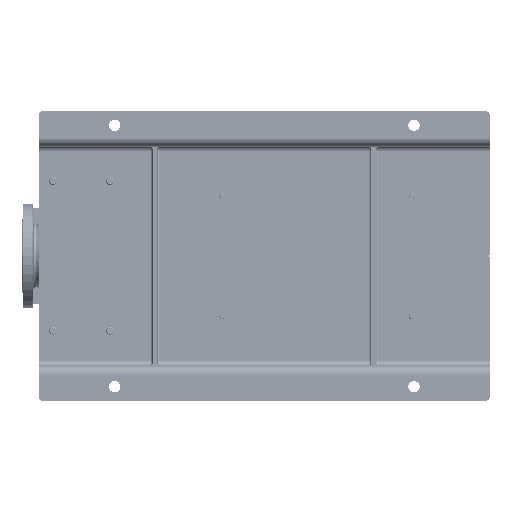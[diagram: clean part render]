
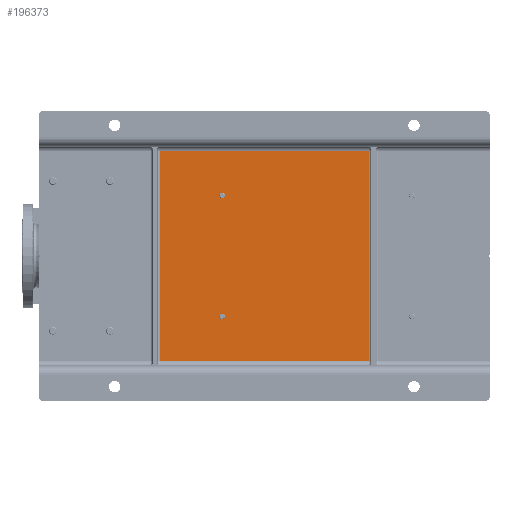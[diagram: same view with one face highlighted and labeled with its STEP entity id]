
A CAD part, front view. The second image highlights one B-rep face of the part: STEP entity #196373.
In plain terms, the highlighted planar face has unit normal (0, -1, 0).
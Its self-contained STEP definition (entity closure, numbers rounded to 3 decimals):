
#9309 = ORIENTED_EDGE ( 'NONE', *, *, #230290, .T. ) ;
#11022 = CARTESIAN_POINT ( 'NONE',  ( 432., 65., -392.5 ) ) ;
#12172 = DIRECTION ( 'NONE',  ( 0., 0., -1. ) ) ;
#19432 = CARTESIAN_POINT ( 'NONE',  ( 525., 65., -250. ) ) ;
#21341 = AXIS2_PLACEMENT_3D ( 'NONE', #234202, #68946, #12172 ) ;
#21811 = EDGE_LOOP ( 'NONE', ( #149439, #53320 ) ) ;
#32239 = DIRECTION ( 'NONE',  ( 0., 1., 0. ) ) ;
#36063 = DIRECTION ( 'NONE',  ( 0., 0., -1. ) ) ;
#36657 = CARTESIAN_POINT ( 'NONE',  ( 178., 65., -386.5 ) ) ;
#36715 = ORIENTED_EDGE ( 'NONE', *, *, #155156, .T. ) ;
#44853 = ORIENTED_EDGE ( 'NONE', *, *, #107772, .T. ) ;
#48762 = VERTEX_POINT ( 'NONE', #135370 ) ;
#51294 = LINE ( 'NONE', #141347, #178800 ) ;
#53320 = ORIENTED_EDGE ( 'NONE', *, *, #194477, .T. ) ;
#54565 = CARTESIAN_POINT ( 'NONE',  ( 85., 65., -700. ) ) ;
#56221 = CIRCLE ( 'NONE', #194067, 6. ) ;
#57772 = EDGE_LOOP ( 'NONE', ( #213991, #194667, #44853, #117133 ) ) ;
#62649 = DIRECTION ( 'NONE',  ( 0., 0., 1. ) ) ;
#64958 = AXIS2_PLACEMENT_3D ( 'NONE', #233944, #174819, #62649 ) ;
#64985 = DIRECTION ( 'NONE',  ( -1., 0., 0. ) ) ;
#65746 = DIRECTION ( 'NONE',  ( 1., 0., 0. ) ) ;
#66531 = FACE_BOUND ( 'NONE', #95311, .T. ) ;
#68946 = DIRECTION ( 'NONE',  ( 0., -1., 0. ) ) ;
#69280 = DIRECTION ( 'NONE',  ( 0., 0., -1. ) ) ;
#71663 = VERTEX_POINT ( 'NONE', #180698 ) ;
#73117 = LINE ( 'NONE', #54565, #76061 ) ;
#73800 = LINE ( 'NONE', #19432, #112823 ) ;
#76061 = VECTOR ( 'NONE', #36063, 1000. ) ;
#83410 = VECTOR ( 'NONE', #65746, 1000. ) ;
#85047 = FACE_OUTER_BOUND ( 'NONE', #57772, .T. ) ;
#85887 = VERTEX_POINT ( 'NONE', #11022 ) ;
#86671 = CARTESIAN_POINT ( 'NONE',  ( 75., 65., -695. ) ) ;
#87494 = VERTEX_POINT ( 'NONE', #242896 ) ;
#91286 = CIRCLE ( 'NONE', #134569, 6. ) ;
#93644 = CARTESIAN_POINT ( 'NONE',  ( 432., 65., -380.5 ) ) ;
#94637 = DIRECTION ( 'NONE',  ( 0., 1., 0. ) ) ;
#95311 = EDGE_LOOP ( 'NONE', ( #9309, #36715 ) ) ;
#95927 = DIRECTION ( 'NONE',  ( 0., 0., 1. ) ) ;
#102314 = FACE_BOUND ( 'NONE', #21811, .T. ) ;
#107772 = EDGE_CURVE ( 'NONE', #144175, #177481, #73800, .T. ) ;
#112823 = VECTOR ( 'NONE', #95927, 1000. ) ;
#117133 = ORIENTED_EDGE ( 'NONE', *, *, #156896, .T. ) ;
#127049 = AXIS2_PLACEMENT_3D ( 'NONE', #36657, #94637, #145219 ) ;
#129443 = VERTEX_POINT ( 'NONE', #93644 ) ;
#134569 = AXIS2_PLACEMENT_3D ( 'NONE', #150559, #207293, #152991 ) ;
#135370 = CARTESIAN_POINT ( 'NONE',  ( 178., 65., -380.5 ) ) ;
#135903 = CARTESIAN_POINT ( 'NONE',  ( 525., 65., -695. ) ) ;
#141347 = CARTESIAN_POINT ( 'NONE',  ( 75., 65., -255. ) ) ;
#144175 = VERTEX_POINT ( 'NONE', #135903 ) ;
#145219 = DIRECTION ( 'NONE',  ( 0., 0., -1. ) ) ;
#149439 = ORIENTED_EDGE ( 'NONE', *, *, #225783, .T. ) ;
#150559 = CARTESIAN_POINT ( 'NONE',  ( 432., 65., -386.5 ) ) ;
#152991 = DIRECTION ( 'NONE',  ( 0., 0., 1. ) ) ;
#155156 = EDGE_CURVE ( 'NONE', #85887, #129443, #91286, .T. ) ;
#156896 = EDGE_CURVE ( 'NONE', #177481, #71663, #51294, .T. ) ;
#159430 = LINE ( 'NONE', #86671, #83410 ) ;
#160948 = VERTEX_POINT ( 'NONE', #164048 ) ;
#164048 = CARTESIAN_POINT ( 'NONE',  ( 178., 65., -392.5 ) ) ;
#165310 = EDGE_CURVE ( 'NONE', #87494, #144175, #159430, .T. ) ;
#167767 = CARTESIAN_POINT ( 'NONE',  ( 525., 65., -255. ) ) ;
#174819 = DIRECTION ( 'NONE',  ( 0., 1., 0. ) ) ;
#177481 = VERTEX_POINT ( 'NONE', #167767 ) ;
#178800 = VECTOR ( 'NONE', #64985, 1000. ) ;
#180698 = CARTESIAN_POINT ( 'NONE',  ( 85., 65., -255. ) ) ;
#181147 = PLANE ( 'NONE',  #21341 ) ;
#194067 = AXIS2_PLACEMENT_3D ( 'NONE', #202395, #32239, #69280 ) ;
#194477 = EDGE_CURVE ( 'NONE', #160948, #48762, #56221, .T. ) ;
#194667 = ORIENTED_EDGE ( 'NONE', *, *, #165310, .T. ) ;
#196373 = ADVANCED_FACE ( 'NONE', ( #66531, #102314, #85047 ), #181147, .T. ) ;
#202395 = CARTESIAN_POINT ( 'NONE',  ( 178., 65., -386.5 ) ) ;
#205746 = CIRCLE ( 'NONE', #127049, 6. ) ;
#207293 = DIRECTION ( 'NONE',  ( 0., 1., 0. ) ) ;
#210503 = CIRCLE ( 'NONE', #64958, 6. ) ;
#213991 = ORIENTED_EDGE ( 'NONE', *, *, #226912, .T. ) ;
#225783 = EDGE_CURVE ( 'NONE', #48762, #160948, #205746, .T. ) ;
#226912 = EDGE_CURVE ( 'NONE', #71663, #87494, #73117, .T. ) ;
#230290 = EDGE_CURVE ( 'NONE', #129443, #85887, #210503, .T. ) ;
#233944 = CARTESIAN_POINT ( 'NONE',  ( 432., 65., -386.5 ) ) ;
#234202 = CARTESIAN_POINT ( 'NONE',  ( 75., 65., -950. ) ) ;
#242896 = CARTESIAN_POINT ( 'NONE',  ( 85., 65., -695. ) ) ;
